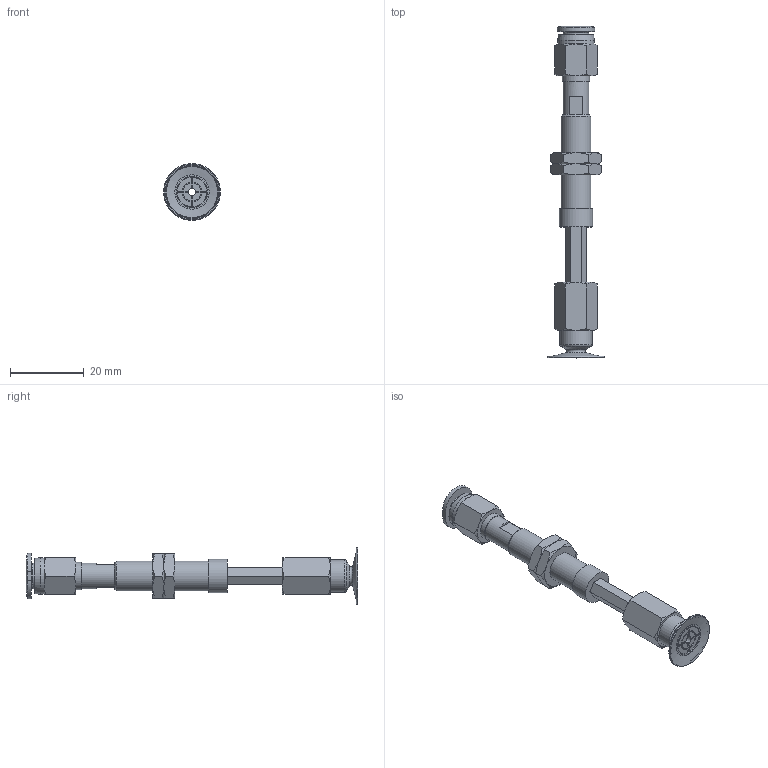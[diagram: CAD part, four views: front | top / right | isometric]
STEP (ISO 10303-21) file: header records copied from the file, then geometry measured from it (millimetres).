
FILE_DESCRIPTION(('STEP AP203'),'1');
FILE_NAME('-O.stp','2025-08-21T08:05:09',(' '),(' '),'Spatial InterOp 3D',' ',' ');
FILE_SCHEMA(('CONFIG_CONTROL_DESIGN'));
Length unit declared in the file: millimetre
Products named in the file (7): BNABPATH-15B-15-※-O; ADAPTER; NAPATH-10A-15--M; NAPATH-10A-15--F; Nut-10A-S; PC-C_06-M5; BPAG-15B-※
Assembly tree (7 placements, depth 2):
  BNABPATH-15B-15-※-O
    ADAPTER
    NAPATH-10A-15--M
    NAPATH-10A-15--F
    Nut-10A-S  x2
    PC-C_06-M5
    BPAG-15B-※
Bounding box: 15.4 x 89.98 x 15.4 mm (x, y, z)
Volume: 4765.6 mm3; surface area: 6054.8 mm2
Topology: 7 solids, 7 shells, 216 faces, 475 edges, 289 vertices
Faces by surface type: plane 90, cone 71, cylinder 36, torus 12, bspline 4, revolution 3
Full cylindrical faces by diameter (mm): 2 x3, 4 x4, 4.134 x1, 5 x1, 6 x2, 7 x2, 7.188 x2, 7.4 x1, 8 x1, 8.2 x1, 8.5 x1, 8.7 x1, 9 x1, 10 x1
Entity records: 5764 total; most frequent: CARTESIAN_POINT 1543, DIRECTION 795, ORIENTED_EDGE 732, EDGE_CURVE 366, AXIS2_PLACEMENT_3D 330, EDGE_LOOP 266, VERTEX_POINT 248, FACE_OUTER_BOUND 226
